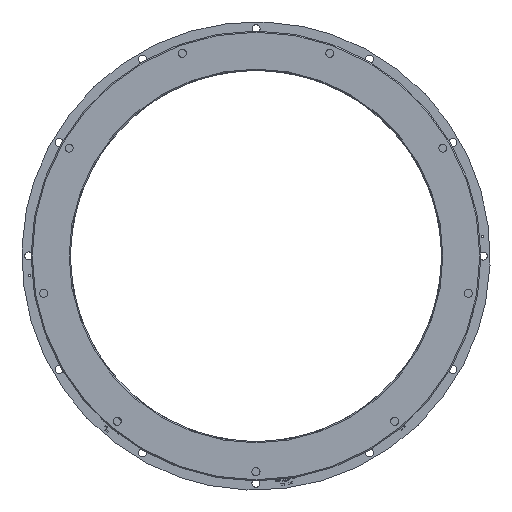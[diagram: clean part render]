
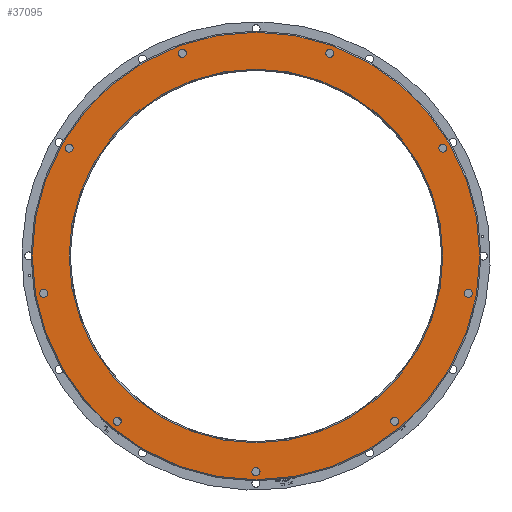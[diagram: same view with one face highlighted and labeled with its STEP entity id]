
A CAD part, left-side view. The second image highlights one B-rep face of the part: STEP entity #37095.
In plain terms, the highlighted planar face has unit normal (-1, 0, 0).
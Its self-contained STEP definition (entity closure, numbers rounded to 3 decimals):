
#33147=PLANE('',#98495);
#37095=ADVANCED_FACE('',(#43484,#43485,#43486,#43487,#43488,#43489,#43490,
#43491,#43492,#43493,#43494),#33147,.T.);
#43484=FACE_BOUND('',#44035,.T.);
#43485=FACE_BOUND('',#44036,.T.);
#43486=FACE_BOUND('',#44037,.T.);
#43487=FACE_BOUND('',#44038,.T.);
#43488=FACE_BOUND('',#44039,.T.);
#43489=FACE_BOUND('',#44040,.T.);
#43490=FACE_BOUND('',#44041,.T.);
#43491=FACE_BOUND('',#44042,.T.);
#43492=FACE_BOUND('',#44043,.T.);
#43493=FACE_BOUND('',#44044,.T.);
#43494=FACE_BOUND('',#44045,.T.);
#44035=EDGE_LOOP('',(#49750));
#44036=EDGE_LOOP('',(#49751));
#44037=EDGE_LOOP('',(#49752));
#44038=EDGE_LOOP('',(#49753));
#44039=EDGE_LOOP('',(#49754));
#44040=EDGE_LOOP('',(#49755));
#44041=EDGE_LOOP('',(#49756));
#44042=EDGE_LOOP('',(#49757));
#44043=EDGE_LOOP('',(#49758));
#44044=EDGE_LOOP('',(#49759));
#44045=EDGE_LOOP('',(#49760));
#49750=ORIENTED_EDGE('',*,*,#83659,.T.);
#49751=ORIENTED_EDGE('',*,*,#83660,.T.);
#49752=ORIENTED_EDGE('',*,*,#83658,.T.);
#49753=ORIENTED_EDGE('',*,*,#83661,.T.);
#49754=ORIENTED_EDGE('',*,*,#83662,.T.);
#49755=ORIENTED_EDGE('',*,*,#83663,.T.);
#49756=ORIENTED_EDGE('',*,*,#83664,.T.);
#49757=ORIENTED_EDGE('',*,*,#83665,.T.);
#49758=ORIENTED_EDGE('',*,*,#83666,.T.);
#49759=ORIENTED_EDGE('',*,*,#83667,.T.);
#49760=ORIENTED_EDGE('',*,*,#83668,.T.);
#75346=VERTEX_POINT('',#130578);
#75347=VERTEX_POINT('',#130581);
#75348=VERTEX_POINT('',#130583);
#75349=VERTEX_POINT('',#130585);
#75350=VERTEX_POINT('',#130587);
#75351=VERTEX_POINT('',#130589);
#75352=VERTEX_POINT('',#130591);
#75353=VERTEX_POINT('',#130593);
#75354=VERTEX_POINT('',#130595);
#75355=VERTEX_POINT('',#130597);
#75356=VERTEX_POINT('',#130599);
#83658=EDGE_CURVE('',#75346,#75346,#96457,.T.);
#83659=EDGE_CURVE('',#75347,#75347,#96458,.T.);
#83660=EDGE_CURVE('',#75348,#75348,#96459,.T.);
#83661=EDGE_CURVE('',#75349,#75349,#96460,.T.);
#83662=EDGE_CURVE('',#75350,#75350,#96461,.T.);
#83663=EDGE_CURVE('',#75351,#75351,#96462,.T.);
#83664=EDGE_CURVE('',#75352,#75352,#96463,.T.);
#83665=EDGE_CURVE('',#75353,#75353,#96464,.T.);
#83666=EDGE_CURVE('',#75354,#75354,#96465,.T.);
#83667=EDGE_CURVE('',#75355,#75355,#96466,.T.);
#83668=EDGE_CURVE('',#75356,#75356,#96467,.T.);
#96457=CIRCLE('',#98483,81.);
#96458=CIRCLE('',#98485,97.);
#96459=CIRCLE('',#98486,1.75);
#96460=CIRCLE('',#98487,1.75);
#96461=CIRCLE('',#98488,1.75);
#96462=CIRCLE('',#98489,1.75);
#96463=CIRCLE('',#98490,1.75);
#96464=CIRCLE('',#98491,1.75);
#96465=CIRCLE('',#98492,1.75);
#96466=CIRCLE('',#98493,1.75);
#96467=CIRCLE('',#98494,1.75);
#98483=AXIS2_PLACEMENT_3D('',#130577,#105744,#105745);
#98485=AXIS2_PLACEMENT_3D('',#130580,#105748,#105749);
#98486=AXIS2_PLACEMENT_3D('',#130582,#105750,#105751);
#98487=AXIS2_PLACEMENT_3D('',#130584,#105752,#105753);
#98488=AXIS2_PLACEMENT_3D('',#130586,#105754,#105755);
#98489=AXIS2_PLACEMENT_3D('',#130588,#105756,#105757);
#98490=AXIS2_PLACEMENT_3D('',#130590,#105758,#105759);
#98491=AXIS2_PLACEMENT_3D('',#130592,#105760,#105761);
#98492=AXIS2_PLACEMENT_3D('',#130594,#105762,#105763);
#98493=AXIS2_PLACEMENT_3D('',#130596,#105764,#105765);
#98494=AXIS2_PLACEMENT_3D('',#130598,#105766,#105767);
#98495=AXIS2_PLACEMENT_3D('',#130600,#105768,#105769);
#105744=DIRECTION('',(1.,0.,0.));
#105745=DIRECTION('',(0.,0.866,-0.5));
#105748=DIRECTION('',(-1.,0.,0.));
#105749=DIRECTION('',(0.,-0.866,0.5));
#105750=DIRECTION('',(1.,0.,0.));
#105751=DIRECTION('',(0.,0.5,0.866));
#105752=DIRECTION('',(1.,0.,0.));
#105753=DIRECTION('',(0.,0.94,0.342));
#105754=DIRECTION('',(1.,0.,0.));
#105755=DIRECTION('',(0.,0.94,-0.342));
#105756=DIRECTION('',(1.,0.,0.));
#105757=DIRECTION('',(0.,0.5,-0.866));
#105758=DIRECTION('',(1.,0.,0.));
#105759=DIRECTION('',(0.,-0.174,-0.985));
#105760=DIRECTION('',(1.,0.,0.));
#105761=DIRECTION('',(0.,-0.766,-0.643));
#105762=DIRECTION('',(1.,0.,0.));
#105763=DIRECTION('',(0.,-1.,0.));
#105764=DIRECTION('',(1.,0.,0.));
#105765=DIRECTION('',(0.,-0.766,0.643));
#105766=DIRECTION('',(1.,0.,0.));
#105767=DIRECTION('',(0.,-0.174,0.985));
#105768=DIRECTION('',(-1.,0.,0.));
#105769=DIRECTION('',(0.,-0.94,-0.342));
#130577=CARTESIAN_POINT('',(45.9,0.,0.));
#130578=CARTESIAN_POINT('',(45.9,70.148,-40.5));
#130580=CARTESIAN_POINT('',(45.9,0.,0.));
#130581=CARTESIAN_POINT('',(45.9,-84.004,48.5));
#130582=CARTESIAN_POINT('',(45.9,-80.978,46.741));
#130583=CARTESIAN_POINT('',(45.9,-80.104,48.257));
#130584=CARTESIAN_POINT('',(45.9,-31.988,87.858));
#130585=CARTESIAN_POINT('',(45.9,-30.344,88.457));
#130586=CARTESIAN_POINT('',(45.9,31.969,87.865));
#130587=CARTESIAN_POINT('',(45.9,33.614,87.266));
#130588=CARTESIAN_POINT('',(45.9,80.968,46.759));
#130589=CARTESIAN_POINT('',(45.9,81.843,45.243));
#130590=CARTESIAN_POINT('',(45.9,92.081,-16.226));
#130591=CARTESIAN_POINT('',(45.9,91.778,-17.95));
#130592=CARTESIAN_POINT('',(45.9,60.108,-71.619));
#130593=CARTESIAN_POINT('',(45.9,58.768,-72.744));
#130594=CARTESIAN_POINT('',(45.9,0.01,-93.5));
#130595=CARTESIAN_POINT('',(45.9,-1.74,-93.5));
#130596=CARTESIAN_POINT('',(45.9,-60.093,-71.632));
#130597=CARTESIAN_POINT('',(45.9,-61.434,-70.507));
#130598=CARTESIAN_POINT('',(45.9,-92.078,-16.246));
#130599=CARTESIAN_POINT('',(45.9,-92.382,-14.523));
#130600=CARTESIAN_POINT('',(45.9,0.,0.));
